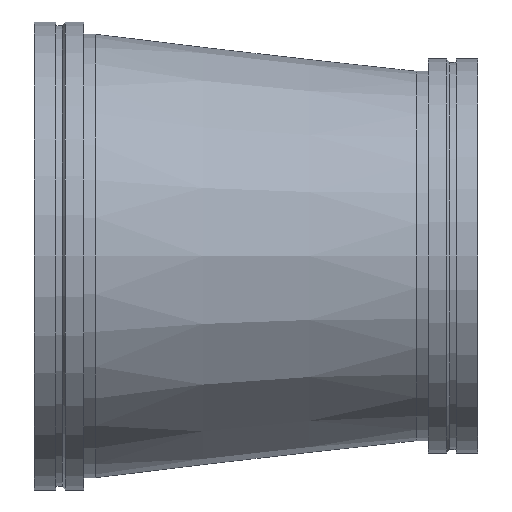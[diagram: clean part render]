
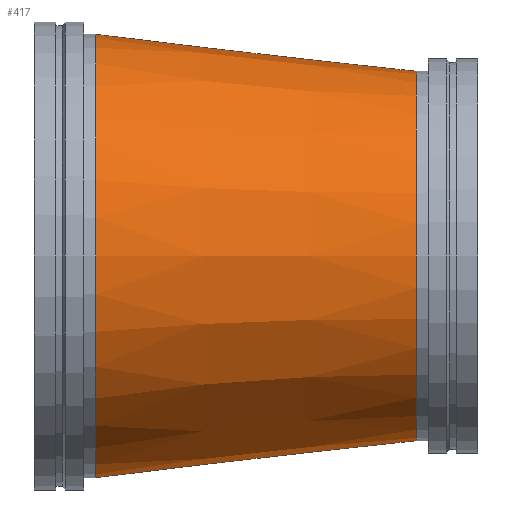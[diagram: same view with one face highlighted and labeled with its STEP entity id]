
A CAD part, front view. The second image highlights one B-rep face of the part: STEP entity #417.
In plain terms, the highlighted conical face has half-angle 6.582 degrees and reference radius 419.1 mm.
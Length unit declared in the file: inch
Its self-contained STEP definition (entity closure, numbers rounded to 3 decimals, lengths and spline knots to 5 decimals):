
#46=CONICAL_SURFACE('',#475,16.5,0.115);
#54=LINE('',#739,#68);
#68=VECTOR('',#587,16.5);
#101=FACE_OUTER_BOUND('',#124,.T.);
#124=EDGE_LOOP('',(#315,#316,#317,#318,#319,#320));
#155=CIRCLE('',#473,18.);
#156=CIRCLE('',#474,18.);
#157=CIRCLE('',#476,15.);
#158=CIRCLE('',#477,15.);
#195=VERTEX_POINT('',#729);
#196=VERTEX_POINT('',#730);
#197=VERTEX_POINT('',#735);
#198=VERTEX_POINT('',#736);
#239=EDGE_CURVE('',#195,#196,#155,.T.);
#240=EDGE_CURVE('',#196,#195,#156,.T.);
#242=EDGE_CURVE('',#197,#198,#157,.T.);
#243=EDGE_CURVE('',#198,#197,#158,.T.);
#244=EDGE_CURVE('',#198,#196,#54,.T.);
#315=ORIENTED_EDGE('',*,*,#242,.F.);
#316=ORIENTED_EDGE('',*,*,#243,.F.);
#317=ORIENTED_EDGE('',*,*,#244,.T.);
#318=ORIENTED_EDGE('',*,*,#240,.T.);
#319=ORIENTED_EDGE('',*,*,#239,.T.);
#320=ORIENTED_EDGE('',*,*,#244,.F.);
#417=ADVANCED_FACE('',(#101),#46,.T.);
#473=AXIS2_PLACEMENT_3D('',#731,#576,#577);
#474=AXIS2_PLACEMENT_3D('',#732,#578,#579);
#475=AXIS2_PLACEMENT_3D('',#734,#581,#582);
#476=AXIS2_PLACEMENT_3D('',#737,#583,#584);
#477=AXIS2_PLACEMENT_3D('',#738,#585,#586);
#576=DIRECTION('center_axis',(1.,0.,0.));
#577=DIRECTION('ref_axis',(0.,0.,-1.));
#578=DIRECTION('center_axis',(1.,0.,0.));
#579=DIRECTION('ref_axis',(0.,0.,-1.));
#581=DIRECTION('center_axis',(-1.,0.,0.));
#582=DIRECTION('ref_axis',(0.,1.,0.));
#583=DIRECTION('center_axis',(1.,0.,0.));
#584=DIRECTION('ref_axis',(0.,0.,-1.));
#585=DIRECTION('center_axis',(1.,0.,0.));
#586=DIRECTION('ref_axis',(0.,0.,-1.));
#587=DIRECTION('',(-0.993,-0.115,0.));
#729=CARTESIAN_POINT('',(5.,18.,0.));
#730=CARTESIAN_POINT('',(5.,-18.,0.));
#731=CARTESIAN_POINT('Origin',(5.,0.,0.));
#732=CARTESIAN_POINT('Origin',(5.,0.,0.));
#734=CARTESIAN_POINT('Origin',(18.,0.,0.));
#735=CARTESIAN_POINT('',(31.,15.,0.));
#736=CARTESIAN_POINT('',(31.,-15.,0.));
#737=CARTESIAN_POINT('Origin',(31.,0.,0.));
#738=CARTESIAN_POINT('Origin',(31.,0.,0.));
#739=CARTESIAN_POINT('',(18.,-16.5,0.));
